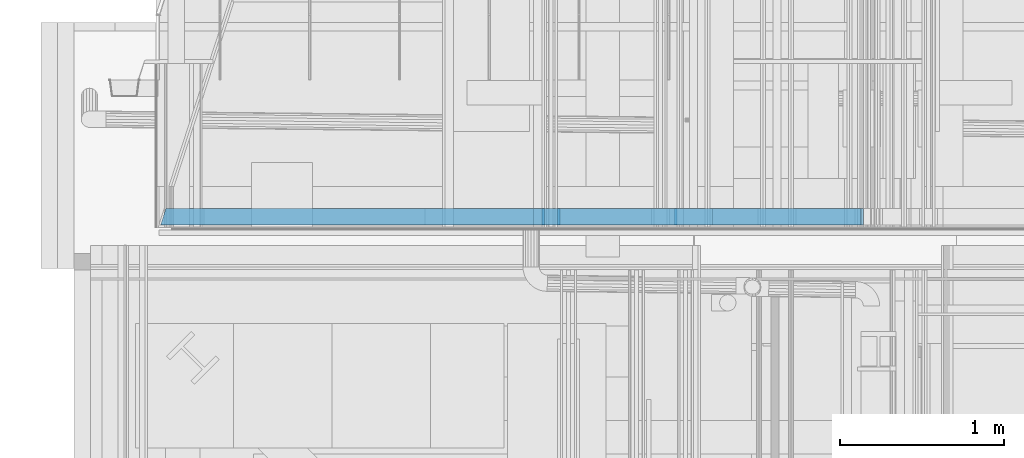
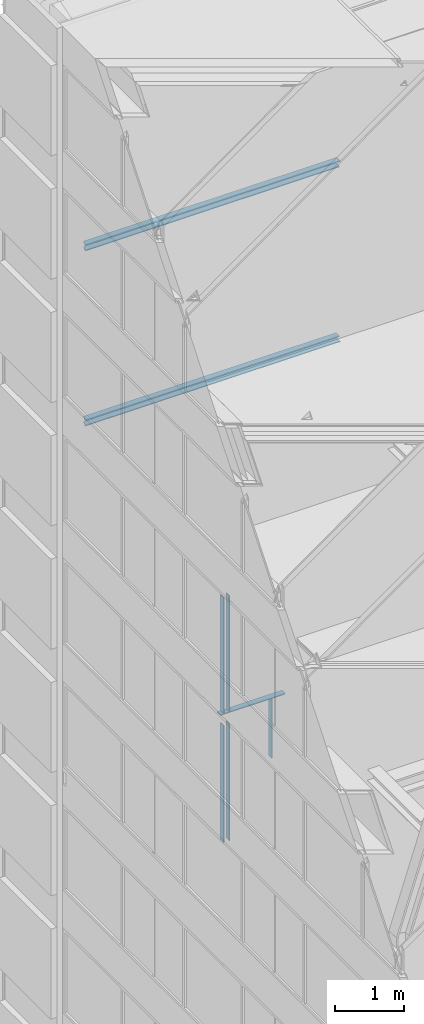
# One storey, part 133 of 583: 10 building element parts, 6 elements without a shape of their own.
"""IFC2X3 building model written with IfcOpenShell, lengths in metres."""

import ifcopenshell
import ifcopenshell.guid

model = None  # the IFC model being written
_history = None  # IfcOwnerHistory: only IFC2X3 demands one
_inside = {}  # id of a spatial element -> (the spatial element, [elements in it])
_under = {}  # id of a project, library or spatial element -> (it, [spatial elements below it])
_declared = {}  # id of a project -> (the project, [libraries it declares])
_typed = {}  # id of a type object -> (the type object, [elements of that type])
_made_of = {}  # id of a material, layer set ... -> (it, [elements and type objects made of it])


def new_model(schema):
    """Start an empty IFC model of exactly this schema.

    Asked for "IFC4X3", IfcOpenShell would pick the latest addendum, in which some entities
    have other attributes; the version numbers below select the first issue.
    IFC2X3 requires an IfcOwnerHistory on every rooted entity: one is made here for all.
    """
    global model, _history
    if schema == "IFC4X3":
        model = ifcopenshell.file(schema_version=(4, 3, 0, 0))
    else:
        model = ifcopenshell.file(schema=schema)
    _inside.clear()
    _under.clear()
    _declared.clear()
    _typed.clear()
    _made_of.clear()
    _history = None
    if model.schema == "IFC2X3":
        org = make("IfcOrganization", Name="unknown")
        user = make(
            "IfcPersonAndOrganization",
            ThePerson=make("IfcPerson", FamilyName="unknown"),
            TheOrganization=org,
        )
        app = make(
            "IfcApplication",
            ApplicationDeveloper=org,
            Version="unknown",
            ApplicationFullName="unknown",
            ApplicationIdentifier="unknown",
        )
        _history = make(
            "IfcOwnerHistory",
            OwningUser=user,
            OwningApplication=app,
            ChangeAction="ADDED",
            CreationDate=0,
        )
    return model


def make(cls, **values):
    """One entity of the class cls with the attributes given. An attribute that is None is left unset."""
    return model.create_entity(
        cls, **{name: value for name, value in values.items() if value is not None}
    )


def entity(cls, *values):
    """Any entity or typed value of the class cls, its attributes in the order of the schema. None: left unset."""
    e = model.create_entity(cls)
    for i, value in enumerate(values):
        if value is not None:
            e[i] = value
    return e


def rooted(cls, **values):
    """An entity with a GlobalId (a new one), such as an element, a storey or a relation."""
    return make(cls, GlobalId=ifcopenshell.guid.new(), OwnerHistory=_history, **values)


def si_unit(unit_type, name, prefix=None):
    """IfcSIUnit, for example si_unit("LENGTHUNIT", "METRE", prefix="MILLI")."""
    return make("IfcSIUnit", UnitType=unit_type, Prefix=prefix, Name=name)


def converted_unit(unit_type, name, factor, base, dimensions=None, offset=None):
    """IfcConversionBasedUnit, such as the inch: factor (a typed value) times the base unit."""
    return make(
        "IfcConversionBasedUnit"
        if offset is None
        else "IfcConversionBasedUnitWithOffset",
        ConversionOffset=offset,
        Dimensions=None
        if dimensions is None
        else entity("IfcDimensionalExponents", *dimensions),
        UnitType=unit_type,
        Name=name,
        ConversionFactor=make(
            "IfcMeasureWithUnit", ValueComponent=factor, UnitComponent=base
        ),
    )


def derived_unit(unit_type, elements):
    """IfcDerivedUnit: a product of units, each with its exponent."""
    return make(
        "IfcDerivedUnit",
        Elements=[
            make("IfcDerivedUnitElement", Unit=unit, Exponent=power)
            for unit, power in elements
        ],
        UnitType=unit_type,
    )


def money_unit(currency):
    """IfcMonetaryUnit."""
    return make("IfcMonetaryUnit", Currency=currency)


def assignment(units):
    """IfcUnitAssignment: the units of a project."""
    return None if units is None else make("IfcUnitAssignment", Units=units)


def point(xyz):
    """IfcCartesianPoint."""
    return None if xyz is None else make("IfcCartesianPoint", Coordinates=xyz)


def direction(xyz):
    """IfcDirection."""
    return None if xyz is None else make("IfcDirection", DirectionRatios=xyz)


def frame(location, z_axis=None, x_axis=None):
    """IfcAxis2Placement3D, a coordinate frame: its origin and axes. An axis left out is left unset."""
    return make(
        "IfcAxis2Placement3D",
        Location=point(location),
        Axis=direction(z_axis),
        RefDirection=direction(x_axis),
    )


def frame_2d(location, x_axis=None):
    """IfcAxis2Placement2D, a coordinate frame in the plane: its origin and x axis."""
    return make(
        "IfcAxis2Placement2D", Location=point(location), RefDirection=direction(x_axis)
    )


def origin_with_axes():
    """The frame at (0, 0, 0) with the z axis (0, 0, 1) and the x axis (1, 0, 0) written out."""
    return frame((0.0, 0.0, 0.0), z_axis=(0.0, 0.0, 1.0), x_axis=(1.0, 0.0, 0.0))


def place(relative_to, where):
    """IfcLocalPlacement: puts the frame where relative to a parent placement (None: the world)."""
    return make(
        "IfcLocalPlacement", PlacementRelTo=relative_to, RelativePlacement=where
    )


def context(
    kind, dimensions, precision=None, world=None, true_north=None, identifier=None
):
    """IfcGeometricRepresentationContext, for example the 3D "Model" context."""
    return make(
        "IfcGeometricRepresentationContext",
        ContextIdentifier=identifier,
        ContextType=kind,
        CoordinateSpaceDimension=dimensions,
        Precision=precision,
        WorldCoordinateSystem=world,
        TrueNorth=true_north,
    )


def subcontext(parent, identifier, kind, view, scale=None):
    """IfcGeometricRepresentationSubContext, for example "Body" below "Model"."""
    return make(
        "IfcGeometricRepresentationSubContext",
        ContextIdentifier=identifier,
        ContextType=kind,
        ParentContext=parent,
        TargetScale=scale,
        TargetView=view,
    )


def project(units=None, contexts=None):
    """IfcProject with its units and contexts."""
    return rooted(
        "IfcProject",
        Name="project",
        RepresentationContexts=contexts,
        UnitsInContext=assignment(units),
    )


def spatial(cls, under=None, at=None, **own):
    """A site, building, storey or space (cls), placed at a placement, below another one or the project."""
    s = rooted(cls, ObjectPlacement=at, **own)
    if under is not None:
        _under.setdefault(under.id(), (under, []))[1].append(s)
    return s


def polyline(points):
    """IfcPolyline through the points."""
    return make("IfcPolyline", Points=[point(p) for p in points])


def profile(cls, at=None, kind="AREA", **sizes):
    """A parametric profile (cls). Its sizes go by their IFC names, for example OverallWidth=200.0."""
    return make(cls, ProfileType=kind, Position=at, **sizes)


def rectangle(**sizes):
    """IfcRectangleProfileDef."""
    return profile("IfcRectangleProfileDef", **sizes)


def outline(outer, holes=None, kind="AREA"):
    """IfcArbitraryClosedProfileDef: a profile drawn as a closed curve; with holes, ...WithVoids."""
    if holes is None:
        return make("IfcArbitraryClosedProfileDef", ProfileType=kind, OuterCurve=outer)
    return make(
        "IfcArbitraryProfileDefWithVoids",
        ProfileType=kind,
        OuterCurve=outer,
        InnerCurves=holes,
    )


def extrude(swept, where, along, depth):
    """IfcExtrudedAreaSolid: the profile swept, set in the frame where, extruded along a direction by depth."""
    return make(
        "IfcExtrudedAreaSolid",
        SweptArea=swept,
        Position=where,
        ExtrudedDirection=direction(along),
        Depth=depth,
    )


def clip(a, b, op="DIFFERENCE"):
    """IfcBooleanClippingResult: the solid a cut by the half space b."""
    return make(
        "IfcBooleanClippingResult", Operator=op, FirstOperand=a, SecondOperand=b
    )


def halfspace(plane, agree):
    """IfcHalfSpaceSolid: all space on one side of the plane z = 0 of the frame plane."""
    return make(
        "IfcHalfSpaceSolid",
        BaseSurface=make("IfcPlane", Position=plane),
        AgreementFlag=agree,
    )


def shape(context_of_items, identifier, shape_type, items):
    """IfcShapeRepresentation: the items that make up one representation, for example the "Body"."""
    return make(
        "IfcShapeRepresentation",
        ContextOfItems=context_of_items,
        RepresentationIdentifier=identifier,
        RepresentationType=shape_type,
        Items=items,
    )


def material(Name=None, Category=None):
    """IfcMaterial."""
    return make("IfcMaterial", Name=Name, Category=Category)


def made_of(thing, what):
    """Note that an element or type object is made of a material, layer set ...; save() writes the relation."""
    if what is not None:
        _made_of.setdefault(what.id(), (what, []))[1].append(thing)
    return thing


def type_object(cls, material=None, **own):
    """A type object (cls), such as IfcWallType, which elements share."""
    return made_of(rooted(cls, **own), material)


def element(
    cls,
    number,
    at=None,
    inside=None,
    cuts=None,
    type_object=None,
    material=None,
    context=None,
    identifier="Body",
    shape_type=None,
    held_by="IfcProductDefinitionShape",
    body=None,
    shapes=None,
    **own,
):
    """One element of the class cls, such as IfcWall. Its Tag is "e" and its number.

    at: its placement. inside: the storey or other place that contains it. cuts: it is an
    opening in that element (IfcRelVoidsElement). A single representation is given by context,
    identifier, shape_type and body (its items); several are given by shapes. held_by: the class
    of the entity that holds the representations. save() writes the other relations.
    """
    e = rooted(cls, Tag="e%d" % number, ObjectPlacement=at, **own)
    if body is not None:
        shapes = [shape(context, identifier, shape_type, body)]
    if shapes is not None:
        e.Representation = make(held_by, Representations=shapes)
    if inside is not None:
        _inside.setdefault(inside.id(), (inside, []))[1].append(e)
    if cuts is not None:
        rooted(
            "IfcRelVoidsElement", RelatingBuildingElement=cuts, RelatedOpeningElement=e
        )
    if type_object is not None:
        _typed.setdefault(type_object.id(), (type_object, []))[1].append(e)
    return made_of(e, material)


def aggregate(whole, parts):
    """IfcRelAggregates: a whole, such as a stair, and the parts it consists of."""
    return rooted("IfcRelAggregates", RelatingObject=whole, RelatedObjects=parts)


def save(model, path):
    """Write the relations noted so far, then the file.

    IfcRelAggregates (storeys below a building ...), IfcRelContainedInSpatialStructure (elements
    in a storey), IfcRelDefinesByType, IfcRelAssociatesMaterial and IfcRelDeclares: one each for
    every whole, place, type object, material and project.
    """
    for whole, parts in _under.values():
        aggregate(whole, parts)
    for where, things in _inside.values():
        rooted(
            "IfcRelContainedInSpatialStructure",
            RelatedElements=things,
            RelatingStructure=where,
        )
    for kind, things in _typed.values():
        rooted("IfcRelDefinesByType", RelatedObjects=things, RelatingType=kind)
    for what, things in _made_of.values():
        rooted("IfcRelAssociatesMaterial", RelatedObjects=things, RelatingMaterial=what)
    for by, libraries in _declared.values():
        rooted("IfcRelDeclares", RelatingContext=by, RelatedDefinitions=libraries)
    model.write(path)


model = new_model("IFC2X3")

# Units and contexts
model_context = context("Model", 3, precision=1e-05, world=origin_with_axes(), true_north=direction((0.0, 1.0)))
body_context = subcontext(model_context, "Body", "Model", "MODEL_VIEW", scale=1.0)
ifc_project = project(units=[si_unit("LENGTHUNIT", "METRE"), si_unit("AREAUNIT", "SQUARE_METRE"), si_unit("VOLUMEUNIT", "CUBIC_METRE"), si_unit("ABSORBEDDOSEUNIT", "GRAY"), si_unit("AMOUNTOFSUBSTANCEUNIT", "MOLE"), si_unit("DOSEEQUIVALENTUNIT", "SIEVERT"), si_unit("ELECTRICCAPACITANCEUNIT", "FARAD"), si_unit("ELECTRICCHARGEUNIT", "COULOMB"), si_unit("ELECTRICCONDUCTANCEUNIT", "SIEMENS"), si_unit("ELECTRICCURRENTUNIT", "AMPERE"), si_unit("ELECTRICRESISTANCEUNIT", "OHM"), si_unit("ELECTRICVOLTAGEUNIT", "VOLT"), si_unit("ENERGYUNIT", "JOULE"), si_unit("FORCEUNIT", "NEWTON"), si_unit("FREQUENCYUNIT", "HERTZ"), si_unit("ILLUMINANCEUNIT", "LUX"), si_unit("INDUCTANCEUNIT", "HENRY"), si_unit("LUMINOUSFLUXUNIT", "LUMEN"), si_unit("LUMINOUSINTENSITYUNIT", "CANDELA"), si_unit("MAGNETICFLUXDENSITYUNIT", "TESLA"), si_unit("MAGNETICFLUXUNIT", "WEBER"), si_unit("MASSUNIT", "GRAM"), converted_unit("PLANEANGLEUNIT", "degree", entity("IfcReal", 0.0174532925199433), si_unit("PLANEANGLEUNIT", "RADIAN"), dimensions=[0, 0, 0, 0, 0, 0, 0]), si_unit("POWERUNIT", "WATT"), si_unit("PRESSUREUNIT", "PASCAL"), si_unit("RADIOACTIVITYUNIT", "BECQUEREL"), si_unit("SOLIDANGLEUNIT", "STERADIAN"), si_unit("THERMODYNAMICTEMPERATUREUNIT", "KELVIN"), si_unit("TIMEUNIT", "SECOND"), derived_unit("ACCELERATIONUNIT", [(si_unit("LENGTHUNIT", "METRE"), 1), (si_unit("TIMEUNIT", "SECOND"), -2)]), derived_unit("ANGULARVELOCITYUNIT", [(converted_unit("PLANEANGLEUNIT", "degree", entity("IfcReal", 0.0174532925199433), si_unit("PLANEANGLEUNIT", "RADIAN"), dimensions=[0, 0, 0, 0, 0, 0, 0]), 1), (si_unit("TIMEUNIT", "SECOND"), -1)]), derived_unit("CURVATUREUNIT", [(converted_unit("PLANEANGLEUNIT", "degree", entity("IfcReal", 0.0174532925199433), si_unit("PLANEANGLEUNIT", "RADIAN"), dimensions=[0, 0, 0, 0, 0, 0, 0]), 1), (si_unit("LENGTHUNIT", "METRE"), -1)]), derived_unit("DYNAMICVISCOSITYUNIT", [(si_unit("PRESSUREUNIT", "PASCAL"), 1), (si_unit("TIMEUNIT", "SECOND"), 1)]), derived_unit("HEATFLUXDENSITYUNIT", [(si_unit("POWERUNIT", "WATT"), 1), (si_unit("LENGTHUNIT", "METRE"), -2)]), derived_unit("HEATINGVALUEUNIT", [(si_unit("ENERGYUNIT", "JOULE"), 1), (si_unit("MASSUNIT", "GRAM"), -1)]), derived_unit("INTEGERCOUNTRATEUNIT", [(si_unit("TIMEUNIT", "SECOND"), -1)]), derived_unit("IONCONCENTRATIONUNIT", [(si_unit("MASSUNIT", "GRAM"), 1), (si_unit("VOLUMEUNIT", "CUBIC_METRE"), -1)]), derived_unit("ISOTHERMALMOISTURECAPACITYUNIT", [(si_unit("VOLUMEUNIT", "CUBIC_METRE"), 1), (si_unit("MASSUNIT", "GRAM"), -1)]), derived_unit("KINEMATICVISCOSITYUNIT", [(si_unit("AREAUNIT", "SQUARE_METRE"), 1), (si_unit("TIMEUNIT", "SECOND"), -1)]), derived_unit("LINEARFORCEUNIT", [(si_unit("FORCEUNIT", "NEWTON"), 1), (si_unit("LENGTHUNIT", "METRE"), -1)]), derived_unit("LINEARMOMENTUNIT", [(si_unit("FORCEUNIT", "NEWTON"), 1), (si_unit("LENGTHUNIT", "METRE"), -1)]), derived_unit("LINEARSTIFFNESSUNIT", [(si_unit("FORCEUNIT", "NEWTON"), 1), (si_unit("LENGTHUNIT", "METRE"), -1)]), derived_unit("LINEARVELOCITYUNIT", [(si_unit("LENGTHUNIT", "METRE"), 1), (si_unit("TIMEUNIT", "SECOND"), -1)]), derived_unit("LUMINOUSINTENSITYDISTRIBUTIONUNIT", [(si_unit("LUMINOUSINTENSITYUNIT", "CANDELA"), 1), (si_unit("LUMINOUSFLUXUNIT", "LUMEN"), -1)]), derived_unit("MASSDENSITYUNIT", [(si_unit("MASSUNIT", "GRAM"), 1), (si_unit("VOLUMEUNIT", "CUBIC_METRE"), -1)]), derived_unit("MASSFLOWRATEUNIT", [(si_unit("MASSUNIT", "GRAM"), 1), (si_unit("TIMEUNIT", "SECOND"), -1)]), derived_unit("MASSPERLENGTHUNIT", [(si_unit("MASSUNIT", "GRAM"), 1), (si_unit("LENGTHUNIT", "METRE"), -1)]), derived_unit("MODULUSOFELASTICITYUNIT", [(si_unit("FORCEUNIT", "NEWTON"), 1), (si_unit("AREAUNIT", "SQUARE_METRE"), -1)]), derived_unit("MODULUSOFLINEARSUBGRADEREACTIONUNIT", [(si_unit("FORCEUNIT", "NEWTON"), 1), (si_unit("LENGTHUNIT", "METRE"), -2)]), derived_unit("MODULUSOFROTATIONALSUBGRADEREACTIONUNIT", [(si_unit("FORCEUNIT", "NEWTON"), 1), (si_unit("LENGTHUNIT", "METRE"), 1)]), derived_unit("MODULUSOFSUBGRADEREACTIONUNIT", [(si_unit("FORCEUNIT", "NEWTON"), 1), (si_unit("VOLUMEUNIT", "CUBIC_METRE"), -1)]), derived_unit("MOISTUREDIFFUSIVITYUNIT", [(si_unit("VOLUMEUNIT", "CUBIC_METRE"), 1), (si_unit("TIMEUNIT", "SECOND"), -1)]), derived_unit("MOLECULARWEIGHTUNIT", [(si_unit("MASSUNIT", "GRAM"), 1), (si_unit("AMOUNTOFSUBSTANCEUNIT", "MOLE"), -1)]), derived_unit("PLANARFORCEUNIT", [(si_unit("FORCEUNIT", "NEWTON"), 1), (si_unit("LENGTHUNIT", "METRE"), -2)]), derived_unit("ROTATIONALFREQUENCYUNIT", [(si_unit("TIMEUNIT", "SECOND"), -1)]), derived_unit("ROTATIONALMASSUNIT", [(si_unit("MASSUNIT", "GRAM"), 1), (si_unit("LENGTHUNIT", "METRE"), 2)]), derived_unit("ROTATIONALSTIFFNESSUNIT", [(si_unit("FORCEUNIT", "NEWTON"), 1), (si_unit("LENGTHUNIT", "METRE"), 1), (converted_unit("PLANEANGLEUNIT", "degree", entity("IfcReal", 0.0174532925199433), si_unit("PLANEANGLEUNIT", "RADIAN"), dimensions=[0, 0, 0, 0, 0, 0, 0]), -1)]), derived_unit("SECTIONAREAINTEGRALUNIT", [(si_unit("LENGTHUNIT", "METRE"), 5)]), derived_unit("SECTIONMODULUSUNIT", [(si_unit("LENGTHUNIT", "METRE"), 3)]), derived_unit("SHEARMODULUSUNIT", [(si_unit("FORCEUNIT", "NEWTON"), 1), (si_unit("AREAUNIT", "SQUARE_METRE"), -1)]), derived_unit("SOUNDPOWERUNIT", [(si_unit("ENERGYUNIT", "JOULE"), 1), (si_unit("TIMEUNIT", "SECOND"), -1)]), derived_unit("SPECIFICHEATCAPACITYUNIT", [(si_unit("FORCEUNIT", "NEWTON"), 1), (si_unit("MASSUNIT", "GRAM"), -1), (si_unit("THERMODYNAMICTEMPERATUREUNIT", "KELVIN"), -1)]), derived_unit("TEMPERATUREGRADIENTUNIT", [(si_unit("THERMODYNAMICTEMPERATUREUNIT", "KELVIN"), 1), (si_unit("LENGTHUNIT", "METRE"), -1)]), derived_unit("THERMALADMITTANCEUNIT", [(si_unit("POWERUNIT", "WATT"), 1), (si_unit("AREAUNIT", "SQUARE_METRE"), -1), (si_unit("THERMODYNAMICTEMPERATUREUNIT", "KELVIN"), -1)]), derived_unit("THERMALCONDUCTANCEUNIT", [(si_unit("POWERUNIT", "WATT"), 1), (si_unit("LENGTHUNIT", "METRE"), -1), (si_unit("THERMODYNAMICTEMPERATUREUNIT", "KELVIN"), -1)]), derived_unit("THERMALEXPANSIONCOEFFICIENTUNIT", [(si_unit("THERMODYNAMICTEMPERATUREUNIT", "KELVIN"), -1)]), derived_unit("THERMALRESISTANCEUNIT", [(si_unit("AREAUNIT", "SQUARE_METRE"), 1), (si_unit("POWERUNIT", "WATT"), -1)]), derived_unit("THERMALTRANSMITTANCEUNIT", [(si_unit("POWERUNIT", "WATT"), 1), (si_unit("AREAUNIT", "SQUARE_METRE"), -1), (si_unit("THERMODYNAMICTEMPERATUREUNIT", "KELVIN"), -1)]), derived_unit("TORQUEUNIT", [(si_unit("FORCEUNIT", "NEWTON"), 1), (si_unit("LENGTHUNIT", "METRE"), 1)]), derived_unit("VAPORPERMEABILITYUNIT", [(si_unit("MASSUNIT", "GRAM"), 1), (si_unit("TIMEUNIT", "SECOND"), -1)]), derived_unit("VOLUMETRICFLOWRATEUNIT", [(si_unit("VOLUMEUNIT", "CUBIC_METRE"), 1), (si_unit("TIMEUNIT", "SECOND"), -1)]), derived_unit("WARPINGCONSTANTUNIT", [(si_unit("LENGTHUNIT", "METRE"), 6)]), derived_unit("WARPINGMOMENTUNIT", [(si_unit("FORCEUNIT", "NEWTON"), 1), (si_unit("LENGTHUNIT", "METRE"), 2)]), money_unit("GBP")], contexts=[model_context])

# Site, building, storey
site_placement = place(None, origin_with_axes())
site = spatial("IfcSite", under=ifc_project, at=site_placement, Name="Site", CompositionType="ELEMENT")
building_placement = place(site_placement, origin_with_axes())
building = spatial("IfcBuilding", under=site, at=building_placement, Name="Building01", CompositionType="ELEMENT")
storey_placement = place(building_placement, frame((0.0, 0.0, 20.78), z_axis=(0.0, 0.0, 1.0), x_axis=(1.0, 0.0, 0.0)))
storey = spatial("IfcBuildingStorey", under=building, at=storey_placement, Name="RL", CompositionType="ELEMENT", Elevation=20.78)

# Wall, building element parts
wall_type_1 = type_object("IfcWallType", Name="SHE_A-Walls_Type05b_Partition_80mm", PredefinedType="NOTDEFINED")
wall_1_placement = place(storey_placement, frame((2.896761, 14.98, -9.498), z_axis=(0.0, 1.0, 0.0), x_axis=(0.0, 0.0, 1.0)))
wall_1 = element("IfcWall", 1, at=wall_1_placement, inside=storey, type_object=wall_type_1, Name="5B", ObjectType="SHE_A-Walls_Type05b_Partition_80mm")
ifc_material = material(Name="A_BSUK_Walls_Timber")
placement_1 = place(wall_1_placement, origin_with_axes())
building_element_part_1 = element("IfcBuildingElementPart", 2, at=placement_1, material=ifc_material, Name="2", context=body_context, shape_type="SweptSolid", body=[
    extrude(rectangle(XDim=2.075, YDim=0.015, at=frame_2d((1.0805, 0.0605), x_axis=(-1.0, 0.0))), frame((0.0, 0.0, 0.015), z_axis=(0.0, 0.0, 1.0), x_axis=(1.0, 0.0, 0.0)), (0.0, 0.0, 1.0), 0.1),
])
building_element_part_2 = element("IfcBuildingElementPart", 3, at=placement_1, material=ifc_material, Name="5", context=body_context, shape_type="SweptSolid", body=[
    extrude(rectangle(XDim=2.075, YDim=0.015, at=frame_2d((1.0805, -0.0345), x_axis=(-1.0, 0.0))), frame((0.0, 0.0, 0.015), z_axis=(0.0, 0.0, 1.0), x_axis=(1.0, 0.0, 0.0)), (0.0, 0.0, 1.0), 0.1),
])
aggregate(wall_1, [building_element_part_1, building_element_part_2])

wall_2_placement = place(storey_placement, frame((2.922761, 14.98, -5.063), z_axis=(0.0, 1.0, 0.0), x_axis=(0.0, 0.0, -1.0)))
wall_2 = element("IfcWall", 4, at=wall_2_placement, inside=storey, type_object=wall_type_1, Name="5B", ObjectType="SHE_A-Walls_Type05b_Partition_80mm")
placement_2 = place(wall_2_placement, origin_with_axes())
building_element_part_3 = element("IfcBuildingElementPart", 5, at=placement_2, material=ifc_material, Name="2", context=body_context, shape_type="SweptSolid", body=[
    extrude(rectangle(XDim=2.06, YDim=0.015, at=frame_2d((1.072, 0.0605), x_axis=(-1.0, 0.0))), frame((0.0, 0.0, 0.015), z_axis=(0.0, 0.0, 1.0), x_axis=(1.0, 0.0, 0.0)), (0.0, 0.0, 1.0), 0.1),
])
building_element_part_4 = element("IfcBuildingElementPart", 6, at=placement_2, material=ifc_material, Name="5", context=body_context, shape_type="SweptSolid", body=[
    extrude(rectangle(XDim=2.06, YDim=0.015, at=frame_2d((1.072, -0.0345), x_axis=(-1.0, 0.0))), frame((0.0, 0.0, 0.015), z_axis=(0.0, 0.0, 1.0), x_axis=(1.0, 0.0, 0.0)), (0.0, 0.0, 1.0), 0.1),
])
aggregate(wall_2, [building_element_part_3, building_element_part_4])

# Wall, building element part
wall_type_2 = type_object("IfcWallType", Name="SHE_A-Walls_Type01d_Partywall_200mm_twin", PredefinedType="NOTDEFINED")
wall_3_placement = place(storey_placement, frame((3.805, 14.98, -7.305), z_axis=(0.0, 1.0, 0.0), x_axis=(-1.0, 0.0, 0.0)))
wall_3 = element("IfcWall", 7, at=wall_3_placement, inside=storey, type_object=wall_type_2, Name="1D", ObjectType="SHE_A-Walls_Type01d_Partywall_200mm_twin")
building_element_part_5_placement = place(wall_3_placement, origin_with_axes())
building_element_part_5 = element("IfcBuildingElementPart", 8, at=building_element_part_5_placement, material=ifc_material, Name="2", context=body_context, shape_type="SweptSolid", body=[
    extrude(outline(polyline([(1.000239, 0.14), (-0.09, 0.14), (-0.075, 0.125), (1.000239, 0.125), (1.000239, 0.14)])), frame((0.0, 0.0, 0.015), z_axis=(0.0, 0.0, 1.0), x_axis=(1.0, 0.0, 0.0)), (0.0, 0.0, 1.0), 0.1),
])
aggregate(wall_3, [building_element_part_5])

# Wall, building element parts
wall_4_placement = place(storey_placement, frame((4.844, 14.98, 1.907024), z_axis=(0.0, 1.0, 0.0), x_axis=(-1.0, 0.0, 0.0)))
wall_4 = element("IfcWall", 9, at=wall_4_placement, inside=storey, type_object=wall_type_1, Name="5B", ObjectType="SHE_A-Walls_Type05b_Partition_80mm")
placement_3 = place(wall_4_placement, origin_with_axes())
building_element_part_6 = element("IfcBuildingElementPart", 10, at=placement_3, material=ifc_material, Name="2", context=body_context, shape_type="Clipping", body=[
    clip(extrude(rectangle(XDim=4.28827, YDim=0.015, at=frame_2d((2.171135, 0.0605), x_axis=(-1.0, 0.0))), frame((0.0, 0.0, 0.015), z_axis=(0.0, 0.0, 1.0), x_axis=(1.0, 0.0, 0.0)), (0.0, 0.0, 1.0), 0.1), halfspace(frame((3.907606, 0.0, 1.269658), z_axis=(-0.95105652, 0.0, -0.30901699), x_axis=(0.0, -1.0, 0.0)), True)),
])
building_element_part_7 = element("IfcBuildingElementPart", 11, at=placement_3, material=ifc_material, Name="5", context=body_context, shape_type="Clipping", body=[
    clip(extrude(rectangle(XDim=4.27327, YDim=0.015, at=frame_2d((2.178635, -0.0345), x_axis=(-1.0, 0.0))), frame((0.0, 0.0, 0.015), z_axis=(0.0, 0.0, 1.0), x_axis=(1.0, 0.0, 0.0)), (0.0, 0.0, 1.0), 0.1), halfspace(frame((3.907606, 0.0, 1.269658), z_axis=(-0.95105652, 0.0, -0.30901699), x_axis=(0.0, -1.0, 0.0)), True)),
])
aggregate(wall_4, [building_element_part_6, building_element_part_7])

wall_5_placement = place(storey_placement, frame((4.844, 14.98, -1.203024), z_axis=(0.0, 1.0, 0.0), x_axis=(-1.0, 0.0, 0.0)))
wall_5 = element("IfcWall", 12, at=wall_5_placement, inside=storey, type_object=wall_type_1, Name="5B", ObjectType="SHE_A-Walls_Type05b_Partition_80mm")
placement_4 = place(wall_5_placement, origin_with_axes())
building_element_part_8 = element("IfcBuildingElementPart", 13, at=placement_4, material=ifc_material, Name="2", context=body_context, shape_type="Clipping", body=[
    clip(extrude(rectangle(XDim=4.27327, YDim=0.015, at=frame_2d((2.178635, 0.0605), x_axis=(-1.0, 0.0))), frame((0.0, 0.0, 0.015), z_axis=(0.0, 0.0, 1.0), x_axis=(1.0, 0.0, 0.0)), (0.0, 0.0, 1.0), 0.1), halfspace(frame((3.907606, 0.0, 1.269658), z_axis=(-0.95105652, 0.0, -0.30901699), x_axis=(0.0, -1.0, 0.0)), True)),
])
building_element_part_9 = element("IfcBuildingElementPart", 14, at=placement_4, material=ifc_material, Name="5", context=body_context, shape_type="Clipping", body=[
    clip(extrude(rectangle(XDim=4.28827, YDim=0.015, at=frame_2d((2.171135, -0.0345), x_axis=(-1.0, 0.0))), frame((0.0, 0.0, 0.015), z_axis=(0.0, 0.0, 1.0), x_axis=(1.0, 0.0, 0.0)), (0.0, 0.0, 1.0), 0.1), halfspace(frame((3.907606, 0.0, 1.269658), z_axis=(-0.95105652, 0.0, -0.30901699), x_axis=(0.0, -1.0, 0.0)), True)),
])
aggregate(wall_5, [building_element_part_8, building_element_part_9])

# Wall, building element part
wall_6_placement = place(storey_placement, frame((3.78, 14.98, -8.13), z_axis=(0.0, 1.0, 0.0), x_axis=(0.0, 0.0, 1.0)))
wall_6 = element("IfcWall", 15, at=wall_6_placement, inside=storey, type_object=wall_type_2, Name="1D", ObjectType="SHE_A-Walls_Type01d_Partywall_200mm_twin")
building_element_part_10_placement = place(wall_6_placement, origin_with_axes())
building_element_part_10 = element("IfcBuildingElementPart", 16, at=building_element_part_10_placement, material=ifc_material, Name="7", context=body_context, shape_type="SweptSolid", body=[
    extrude(outline(polyline([(0.95, -0.1), (-0.1, -0.1), (-0.115, -0.115), (0.965, -0.115), (0.95, -0.1)])), frame((0.0, 0.0, 0.015), z_axis=(0.0, 0.0, 1.0), x_axis=(1.0, 0.0, 0.0)), (0.0, 0.0, 1.0), 0.1),
])
aggregate(wall_6, [building_element_part_10])

save(model, "model.ifc")
